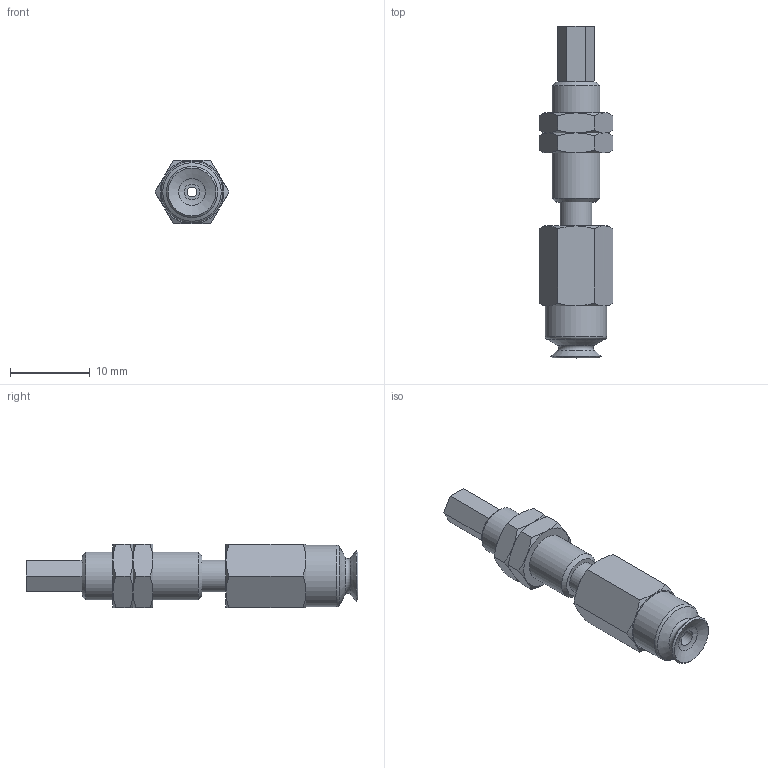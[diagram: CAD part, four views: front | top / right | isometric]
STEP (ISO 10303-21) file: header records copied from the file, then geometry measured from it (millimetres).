
FILE_DESCRIPTION(('STEP AP203'),'1');
FILE_NAME('.stp','2025-08-27T05:35:07',(' '),(' '),'Spatial InterOp 3D',' ',' ');
FILE_SCHEMA(('CONFIG_CONTROL_DESIGN'));
Length unit declared in the file: millimetre
Products named in the file (6): BNABPFTS-6A-3-※; ADAPTER; NAPCTS-7-3-MBODY; Nut-6A-3-s; NAPFTS-6A-3-FBODY; BPFG-6A-※
Assembly tree (6 placements, depth 2):
  BNABPFTS-6A-3-※
    ADAPTER
    NAPCTS-7-3-MBODY
    Nut-6A-3-s  x2
    NAPFTS-6A-3-FBODY
    BPFG-6A-※
Bounding box: 9.24 x 41.5 x 8 mm (x, y, z)
Volume: 1445.1 mm3; surface area: 2133 mm2
Topology: 6 solids, 6 shells, 116 faces, 243 edges, 143 vertices
Faces by surface type: cone 48, plane 46, cylinder 14, torus 7, bspline 1
Full cylindrical faces by diameter (mm): 1.2 x2, 2 x1, 2.459 x1, 4 x4, 5.188 x2, 6 x3, 7.7 x1
Entity records: 2741 total; most frequent: CARTESIAN_POINT 657, DIRECTION 378, ORIENTED_EDGE 314, AXIS2_PLACEMENT_3D 171, EDGE_CURVE 157, EDGE_LOOP 137, FACE_OUTER_BOUND 114, VERTEX_POINT 108
